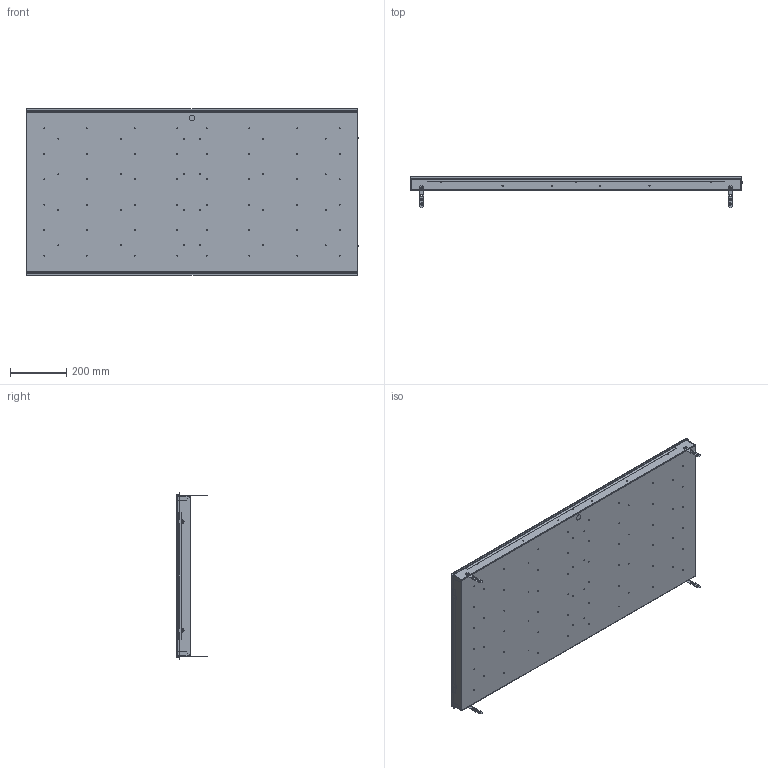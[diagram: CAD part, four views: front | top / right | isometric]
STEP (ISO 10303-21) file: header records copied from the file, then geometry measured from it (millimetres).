
FILE_DESCRIPTION(('STEP AP203'), '1');
FILE_NAME('ÄÊÏ008 02 003.00 ÑÁ - Ñâåòèëüíèê 1200õ600', '', ('UNSPECIFIED'), ('UNSPECIFIED'), 'ASCON STEP Converter 1.6', 'ASCON Math Kernel', '');
FILE_SCHEMA(('CONFIG_CONTROL_DESIGN'));
Length unit declared in the file: millimetre
Products named in the file (11): ДКП008 02 003.00 СБ; ДКП008 02 003.04; ДКП008 02 003.01; ДКП008 01 003.03; ДКП008 01 003.02; ДКП008 02 003.08
Assembly tree (20 placements, depth 3):
  ДКП008 02 003.00 СБ
    ДКП008 02 003.04
    ДКП008 02 003.01
      ДКП008 02 003.01
      ДКП008 01 003.03  x4
      ДКП008 01 003.02  x2
      ДКП008 02 003.08  x2
    (unnamed)
    (unnamed)  x2
    (unnamed)  x2
    (unnamed)  x4
Bounding box: 1175.4 x 110 x 587.8 mm (x, y, z)
Volume: 2610044.9 mm3; surface area: 3432656.1 mm2
Topology: 19 solids, 19 shells, 545 faces, 1329 edges, 844 vertices
Faces by surface type: plane 302, cylinder 179, bspline 40, torus 16, cone 8
Full cylindrical faces by diameter (mm): 1.85 x4, 2.2 x4, 2.5 x10, 3.2 x4, 3.5 x84, 4.4 x4, 4.5 x4, 8 x12, 20 x1
Entity records: 13836 total; most frequent: CARTESIAN_POINT 3588, DIRECTION 1900, ORIENTED_EDGE 1712, EDGE_CURVE 856, EDGE_LOOP 704, AXIS2_PLACEMENT_3D 698, VERTEX_POINT 600, LINE 504
